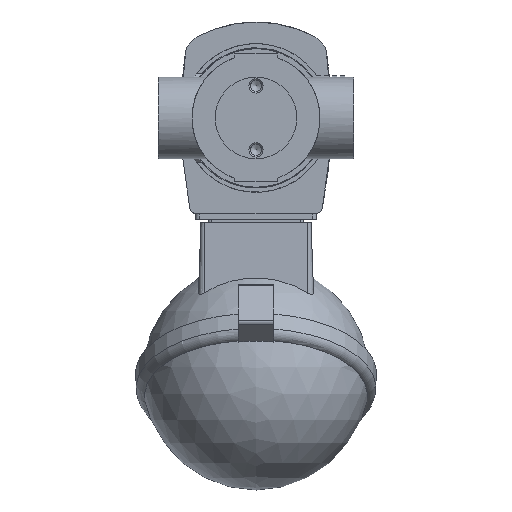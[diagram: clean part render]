
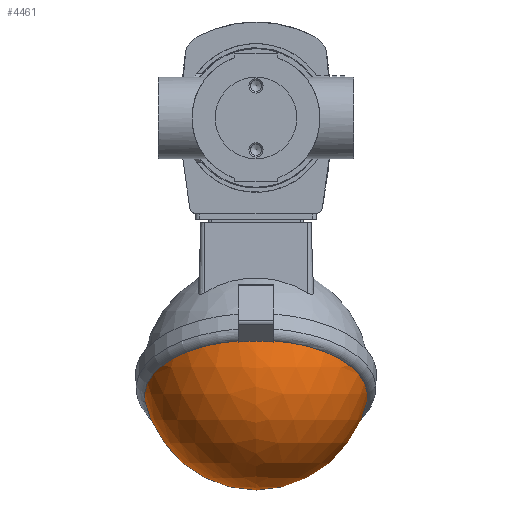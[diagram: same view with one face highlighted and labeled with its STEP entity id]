
A CAD part, front view. The second image highlights one B-rep face of the part: STEP entity #4461.
In plain terms, the highlighted spherical face has radius 32 mm.
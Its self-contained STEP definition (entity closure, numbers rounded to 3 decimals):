
#182=SPHERICAL_SURFACE('',#4725,32.);
#298=CIRCLE('',#4726,31.368);
#299=CIRCLE('',#4727,31.607);
#300=CIRCLE('',#4728,31.291);
#301=CIRCLE('',#4729,31.607);
#302=CIRCLE('',#4730,31.368);
#303=CIRCLE('',#4731,30.708);
#304=CIRCLE('',#4732,30.984);
#305=CIRCLE('',#4733,30.708);
#522=ORIENTED_EDGE('',*,*,#1541,.F.);
#523=ORIENTED_EDGE('',*,*,#1542,.T.);
#524=ORIENTED_EDGE('',*,*,#1543,.T.);
#525=ORIENTED_EDGE('',*,*,#1544,.F.);
#526=ORIENTED_EDGE('',*,*,#1545,.F.);
#527=ORIENTED_EDGE('',*,*,#1546,.F.);
#528=ORIENTED_EDGE('',*,*,#1547,.T.);
#529=ORIENTED_EDGE('',*,*,#1548,.T.);
#1541=EDGE_CURVE('',#2044,#2045,#298,.F.);
#1542=EDGE_CURVE('',#2044,#2046,#299,.F.);
#1543=EDGE_CURVE('',#2046,#2047,#300,.F.);
#1544=EDGE_CURVE('',#2048,#2047,#301,.F.);
#1545=EDGE_CURVE('',#2049,#2048,#302,.F.);
#1546=EDGE_CURVE('',#2050,#2049,#303,.F.);
#1547=EDGE_CURVE('',#2050,#2051,#304,.F.);
#1548=EDGE_CURVE('',#2051,#2045,#305,.F.);
#2044=VERTEX_POINT('',#6434);
#2045=VERTEX_POINT('',#6435);
#2046=VERTEX_POINT('',#6437);
#2047=VERTEX_POINT('',#6439);
#2048=VERTEX_POINT('',#6441);
#2049=VERTEX_POINT('',#6443);
#2050=VERTEX_POINT('',#6445);
#2051=VERTEX_POINT('',#6447);
#2840=EDGE_LOOP('',(#522,#523,#524,#525,#526,#527,#528,#529));
#3112=FACE_BOUND('',#2840,.T.);
#4461=ADVANCED_FACE('',(#3112),#182,.T.);
#4725=AXIS2_PLACEMENT_3D('',#6432,#5219,#5220);
#4726=AXIS2_PLACEMENT_3D('',#6433,#5221,#5222);
#4727=AXIS2_PLACEMENT_3D('',#6436,#5223,#5224);
#4728=AXIS2_PLACEMENT_3D('',#6438,#5225,#5226);
#4729=AXIS2_PLACEMENT_3D('',#6440,#5227,#5228);
#4730=AXIS2_PLACEMENT_3D('',#6442,#5229,#5230);
#4731=AXIS2_PLACEMENT_3D('',#6444,#5231,#5232);
#4732=AXIS2_PLACEMENT_3D('',#6446,#5233,#5234);
#4733=AXIS2_PLACEMENT_3D('',#6448,#5235,#5236);
#5219=DIRECTION('',(1.,0.,0.));
#5220=DIRECTION('',(0.,-1.,0.));
#5221=DIRECTION('',(-0.866,-0.5,0.));
#5222=DIRECTION('',(0.5,-0.866,0.));
#5223=DIRECTION('',(0.,0.,1.));
#5224=DIRECTION('',(1.,0.,0.));
#5225=DIRECTION('',(0.866,0.5,0.));
#5226=DIRECTION('',(-0.5,0.866,0.));
#5227=DIRECTION('',(0.,0.,1.));
#5228=DIRECTION('',(1.,0.,0.));
#5229=DIRECTION('',(-0.866,-0.5,0.));
#5230=DIRECTION('',(0.5,-0.866,0.));
#5231=DIRECTION('',(0.,0.,1.));
#5232=DIRECTION('',(1.,0.,0.));
#5233=DIRECTION('',(0.866,0.5,0.));
#5234=DIRECTION('',(-0.5,0.866,0.));
#5235=DIRECTION('',(0.,0.,1.));
#5236=DIRECTION('',(1.,0.,0.));
#6432=CARTESIAN_POINT('',(-72.7,0.,0.));
#6433=CARTESIAN_POINT('',(-78.183,-3.165,0.));
#6434=CARTESIAN_POINT('',(-62.699,-29.983,-5.));
#6435=CARTESIAN_POINT('',(-93.207,22.858,-9.));
#6436=CARTESIAN_POINT('',(-72.7,0.,-5.));
#6437=CARTESIAN_POINT('',(-63.058,-30.1,-5.));
#6438=CARTESIAN_POINT('',(-78.502,-3.35,0.));
#6439=CARTESIAN_POINT('',(-63.058,-30.1,5.));
#6440=CARTESIAN_POINT('',(-72.7,0.,5.));
#6441=CARTESIAN_POINT('',(-62.699,-29.983,5.));
#6442=CARTESIAN_POINT('',(-78.183,-3.165,0.));
#6443=CARTESIAN_POINT('',(-93.207,22.858,9.));
#6444=CARTESIAN_POINT('',(-72.7,0.,9.));
#6445=CARTESIAN_POINT('',(-94.452,21.676,9.));
#6446=CARTESIAN_POINT('',(-79.628,-4.,0.));
#6447=CARTESIAN_POINT('',(-94.452,21.676,-9.));
#6448=CARTESIAN_POINT('',(-72.7,0.,-9.));
